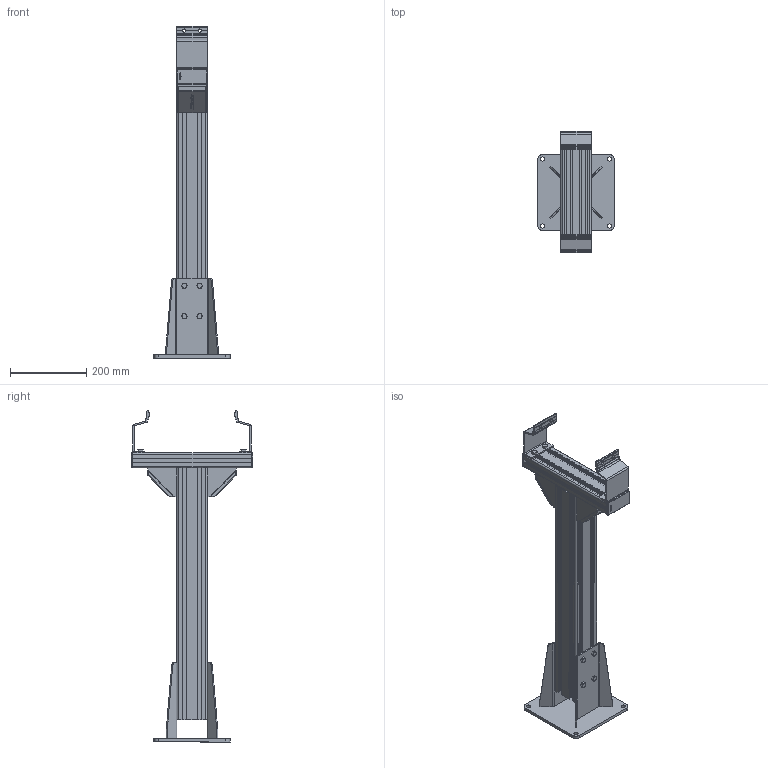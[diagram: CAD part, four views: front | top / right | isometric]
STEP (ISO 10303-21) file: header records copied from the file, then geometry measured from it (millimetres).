
FILE_DESCRIPTION(/* description */ (''),/* implementation_level */ '2;1');
FILE_NAME(/* name */ '\\carryline.intra\privat\users\mathias\Desktop\Tillfälliga filer\Assembly3.stp',/* time_stamp */ '2018-11-20T08:49:56+01:00',/* author */ ('Mathias'),/* organization */ (''),/* preprocessor_version */ 'ST-DEVELOPER v17',/* originating_system */ 'Autodesk Inventor 2018',/* authorisation */ '');
FILE_SCHEMA (('AUTOMOTIVE_DESIGN { 1 0 10303 214 3 1 1 }'));
Products named in the file (13): Assembly3; 100-1345; 100-1030-04; 100-1020-02; 100-1240; 100-2020; 100-1131; 16683_2; 16683_1; 100-4240; 100-4040; 100-4140; ISO 4018 - M8 x 16
Assembly tree (31 placements, depth 4):
  Assembly3
    100-1345
      100-1030-04
      100-1020-02
      100-1240  x2
      100-2020  x2
      100-1131
        16683_1  x2
        16683_2
      100-4240  x2
        100-4040
        100-4140
    ISO 4018 - M8 x 16  x16
Bounding box: 200 x 318.4 x 872 mm (x, y, z)
Volume: 4681423.5 mm3; surface area: 988293.4 mm2
Topology: 29 solids, 29 shells, 3158 faces, 8208 edges, 5156 vertices
Faces by surface type: plane 1536, cylinder 820, bspline 522, cone 176, sphere 72, torus 32
Full cylindrical faces by diameter (mm): 8 x16, 8.5 x8, 9 x8, 11 x4
Entity records: 60048 total; most frequent: CARTESIAN_POINT 19378, ORIENTED_EDGE 8762, DIRECTION 7995, EDGE_CURVE 4381, VERTEX_POINT 2786, LINE 2749, VECTOR 2749, AXIS2_PLACEMENT_3D 2623
